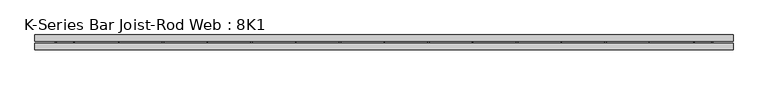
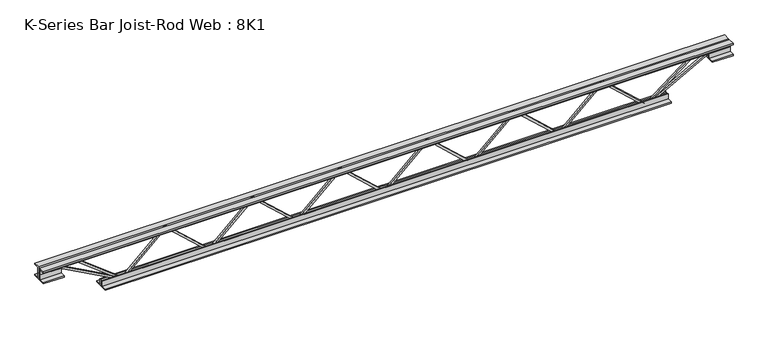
"""IFC4 building model written with IfcOpenShell, lengths in millimetres: beam geometry, K-Series Bar Joist-Rod Web : 8K1."""

from ifc_helpers import new_model, si_unit, frame, origin, place, context, project, spatial, polyline, outline, extrude, source, transform, mapped, element, save


def k_series_bar_joist_rod_web_8k1_099c8507(model_context):
    return source(origin(), model_context, "Body", "SweptSolid", [
        extrude(outline(polyline([(-90.4875, 430.0376473), (-100.0125, 430.0376473), (-100.0125, 435.059607), (90.4875, 643.7284306), (90.4875, 646.3845111), (-100.0125, 855.0533348), (-100.0125, 860.0752945), (-90.4875, 860.0752945), (-90.4875, 858.7472543), (100.0125, 650.0784306), (100.0125, 640.0345111), (-90.4875, 431.3656875), (-90.4875, 430.0376473)])), frame((0.0, -4.7625, 0.0), z_axis=(0.0, 1.0, 0.0), x_axis=(0.0, 0.0, 1.0)), (0.0, 0.0, 1.0), 9.525),
        extrude(outline(polyline([(-90.4875, 0.0), (-100.0125, 0.0), (-100.0125, 5.0219598), (90.4875, 213.6907834), (90.4875, 216.3468639), (-100.0125, 425.0156875), (-100.0125, 430.0376473), (-90.4875, 430.0376473), (-90.4875, 428.709607), (100.0125, 220.0407834), (100.0125, 209.9968639), (-90.4875, 1.3280402), (-90.4875, 0.0)])), frame((0.0, -4.7625, 0.0), z_axis=(0.0, 1.0, 0.0), x_axis=(0.0, 0.0, 1.0)), (0.0, 0.0, 1.0), 9.525),
        extrude(outline(polyline([(-90.4875, -430.0376473), (-100.0125, -430.0376473), (-100.0125, -425.0156875), (90.4875, -216.3468639), (90.4875, -213.6907834), (-100.0125, -5.0219598), (-100.0125, 0.0), (-90.4875, 0.0), (-90.4875, -1.3280402), (100.0125, -209.9968639), (100.0125, -220.0407834), (-90.4875, -428.709607), (-90.4875, -430.0376473)])), frame((0.0, -4.7625, 0.0), z_axis=(0.0, 1.0, 0.0), x_axis=(0.0, 0.0, 1.0)), (0.0, 0.0, 1.0), 9.525),
        extrude(outline(polyline([(-90.4875, -860.0752945), (-100.0125, -860.0752945), (-100.0125, -855.0533348), (90.4875, -646.3845111), (90.4875, -643.7284306), (-100.0125, -435.059607), (-100.0125, -430.0376473), (-90.4875, -430.0376473), (-90.4875, -431.3656875), (100.0125, -640.0345111), (100.0125, -650.0784306), (-90.4875, -858.7472543), (-90.4875, -860.0752945)])), frame((0.0, -4.7625, 0.0), z_axis=(0.0, 1.0, 0.0), x_axis=(0.0, 0.0, 1.0)), (0.0, 0.0, 1.0), 9.525),
        extrude(outline(polyline([(-90.4875, 860.0752945), (-100.0125, 860.0752945), (-100.0125, 865.0972543), (90.4875, 1073.7660779), (90.4875, 1076.4221584), (-100.0125, 1285.090982), (-100.0125, 1290.1129418), (-90.4875, 1290.1129418), (-90.4875, 1288.7849015), (100.0125, 1080.1160779), (100.0125, 1070.0721584), (-90.4875, 861.4033348), (-90.4875, 860.0752945)])), frame((0.0, -4.7625, 0.0), z_axis=(0.0, 1.0, 0.0), x_axis=(0.0, 0.0, 1.0)), (0.0, 0.0, 1.0), 9.525),
        extrude(outline(polyline([(-90.4875, -1290.1129418), (-100.0125, -1290.1129418), (-100.0125, -1285.090982), (90.4875, -1076.4221584), (90.4875, -1073.7660779), (-100.0125, -865.0972543), (-100.0125, -860.0752945), (-90.4875, -860.0752945), (-90.4875, -861.4033348), (100.0125, -1070.0721584), (100.0125, -1080.1160779), (-90.4875, -1288.7849015), (-90.4875, -1290.1129418)])), frame((0.0, -4.7625, 0.0), z_axis=(0.0, 1.0, 0.0), x_axis=(0.0, 0.0, 1.0)), (0.0, 0.0, 1.0), 9.525),
        extrude(outline(polyline([(4.7625, 101.6), (36.5125, 101.6), (36.5125, 95.25), (11.1125, 95.25), (11.1125, 69.85), (4.7625, 69.85), (4.7625, 101.6)])), frame((-1696.5129418, 0.0, 0.0), z_axis=(1.0, 0.0, 0.0), x_axis=(0.0, 1.0, 0.0)), (0.0, 0.0, 1.0), 3393.0258836),
        extrude(outline(polyline([(-4.7625, 101.6), (-4.7625, 69.85), (-11.1125, 69.85), (-11.1125, 95.25), (-36.5125, 95.25), (-36.5125, 101.6), (-4.7625, 101.6)])), frame((-1696.5129418, 0.0, 0.0), z_axis=(1.0, 0.0, 0.0), x_axis=(0.0, 1.0, 0.0)), (0.0, 0.0, 1.0), 3393.0258836),
        extrude(outline(polyline([(-4.7625, 38.1), (-36.5125, 38.1), (-36.5125, 44.45), (-11.1125, 44.45), (-11.1125, 69.85), (-4.7625, 69.85), (-4.7625, 38.1)])), frame((-1696.5129418, 0.0, 0.0), z_axis=(1.0, 0.0, 0.0), x_axis=(0.0, 1.0, 0.0)), (0.0, 0.0, 1.0), 101.6),
        extrude(outline(polyline([(36.5125, 38.1), (4.7625, 38.1), (4.7625, 69.85), (11.1125, 69.85), (11.1125, 44.45), (36.5125, 44.45), (36.5125, 38.1)])), frame((-1696.5129418, 0.0, 0.0), z_axis=(1.0, 0.0, 0.0), x_axis=(0.0, 1.0, 0.0)), (0.0, 0.0, 1.0), 101.6),
        extrude(outline(polyline([(4.7625, 38.1), (4.7625, 69.85), (11.1125, 69.85), (11.1125, 44.45), (36.5125, 44.45), (36.5125, 38.1), (4.7625, 38.1)])), frame((1594.9129418, 0.0, 0.0), z_axis=(1.0, 0.0, 0.0), x_axis=(0.0, 1.0, 0.0)), (0.0, 0.0, 1.0), 101.6),
        extrude(outline(polyline([(-4.7625, 38.1), (-36.5125, 38.1), (-36.5125, 44.45), (-11.1125, 44.45), (-11.1125, 69.85), (-4.7625, 69.85), (-4.7625, 38.1)])), frame((1594.9129418, 0.0, 0.0), z_axis=(1.0, 0.0, 0.0), x_axis=(0.0, 1.0, 0.0)), (0.0, 0.0, 1.0), 101.6),
        extrude(outline(polyline([(4.7625, -101.6), (4.7625, -69.85), (11.1125, -69.85), (11.1125, -95.25), (36.5125, -95.25), (36.5125, -101.6), (4.7625, -101.6)])), frame((-1391.7129418, 0.0, 0.0), z_axis=(1.0, 0.0, 0.0), x_axis=(0.0, 1.0, 0.0)), (0.0, 0.0, 1.0), 2783.4258836),
        extrude(outline(polyline([(-4.7625, -101.6), (-36.5125, -101.6), (-36.5125, -95.25), (-11.1125, -95.25), (-11.1125, -69.85), (-4.7625, -69.85), (-4.7625, -101.6)])), frame((-1391.7129418, 0.0, 0.0), z_axis=(1.0, 0.0, 0.0), x_axis=(0.0, 1.0, 0.0)), (0.0, 0.0, 1.0), 2783.4258836),
        extrude(outline(polyline([(0.0, -9.525), (0.0, 0.0), (346.6425392, 0.0), (346.6425392, -9.525), (0.0, -9.525)])), frame((-1597.1812403, 4.7625, 65.662372), z_axis=(0.47628314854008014, 0.0, 0.8792919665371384), x_axis=(0.8792919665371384, 0.0, -0.47628314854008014)), (0.0, 0.0, 1.0), 9.525),
        extrude(outline(polyline([(0.0, -9.525), (0.0, 0.0), (271.092428, 0.0), (271.092428, -9.525), (0.0, -9.525)])), frame((-1508.0322107, 4.7625, 66.0725904), z_axis=(0.609017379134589, 0.0, 0.7931568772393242), x_axis=(0.7931568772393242, 0.0, -0.609017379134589)), (0.0, 0.0, 1.0), 9.525),
        extrude(outline(polyline([(0.0, -9.525), (0.0, 0.0), (346.6425392, 0.0), (346.6425392, -9.525), (0.0, -9.525)])), frame((1597.1812403, -4.7625, 65.662372), z_axis=(-0.47628314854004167, 0.0, 0.8792919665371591), x_axis=(-0.8792919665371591, 0.0, -0.47628314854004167)), (0.0, 0.0, 1.0), 9.525),
        extrude(outline(polyline([(0.0, -9.525), (0.0, 0.0), (271.092428, 0.0), (271.092428, -9.525), (0.0, -9.525)])), frame((1508.0322107, -4.7625, 66.0725904), z_axis=(-0.6090173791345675, 0.0, 0.7931568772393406), x_axis=(-0.7931568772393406, 0.0, -0.6090173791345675)), (0.0, 0.0, 1.0), 9.525),
    ])


if __name__ == "__main__":
    model = new_model("IFC4")
    model_context = context("Model", 3, world=origin())
    ifc_project = project(units=[si_unit("LENGTHUNIT", "METRE", prefix="MILLI")], contexts=[model_context])
    site = spatial("IfcSite", under=ifc_project)
    building = spatial("IfcBuilding", under=site)
    placement = place(None, origin())
    k_series_bar_joist_rod_web_8k1_shape = k_series_bar_joist_rod_web_8k1_099c8507(model_context)
    element("IfcBeam", 1, ObjectType="K-Series Bar Joist-Rod Web : 8K1", at=placement, inside=building, context=model_context, shape_type="MappedRepresentation", body=[
        mapped(k_series_bar_joist_rod_web_8k1_shape, transform((0.0, 0.0, 0.0), x_axis=(1.0, 0.0, 0.0), y_axis=(0.0, 1.0, 0.0), z_axis=(0.0, 0.0, 1.0))),
    ])
    save(model, "model.ifc")
